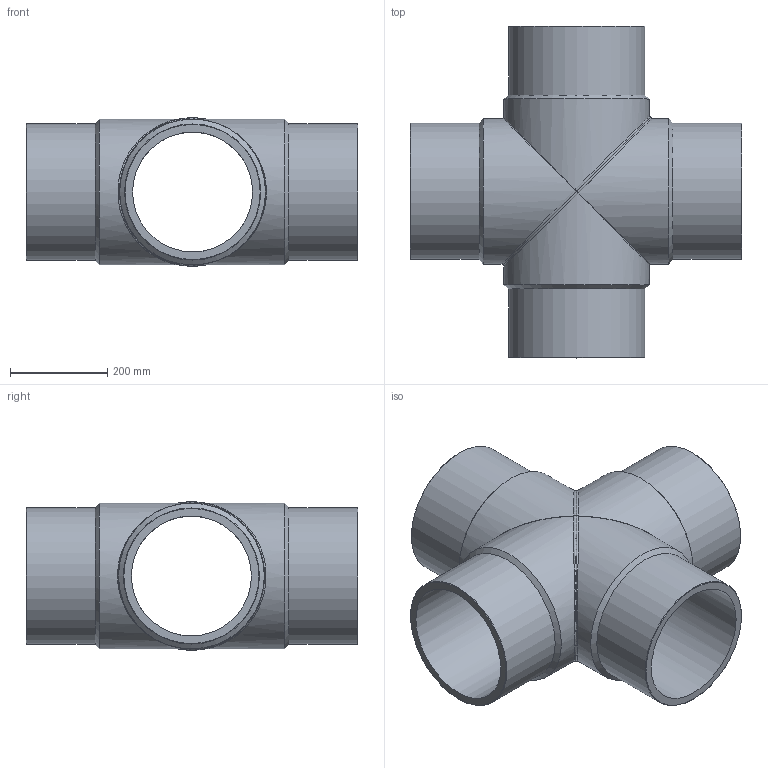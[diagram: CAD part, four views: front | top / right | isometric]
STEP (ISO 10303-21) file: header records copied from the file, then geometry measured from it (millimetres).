
FILE_DESCRIPTION(/* description */ ('Unknown'),/* implementation_level */ '2;1');
FILE_NAME(/* name */ 'CRP280B',/* time_stamp */ '2022-07-08T11:12:12+02:00',/* author */ ('Unknown'),/* organization */ ('Unknown'),/* preprocessor_version */ 'ST-DEVELOPER v18.102',/* originating_system */ 'Solid Edge',/* authorisation */ 'Unknown');
FILE_SCHEMA (('AUTOMOTIVE_DESIGN {1 0 10303 214 3 1 1}'));
Length unit declared in the file: millimetre
Products named in the file (3): CRP280B; CRP280B_mir
Assembly tree (2 placements, depth 2):
  CRP280B
    CRP280B
    CRP280B_mir
Bounding box: 682.5 x 682.5 x 304.99 mm (x, y, z)
Volume: 17896727.4 mm3; surface area: 1842431.1 mm2
Topology: 2 solids, 2 shells, 32 faces, 144 edges, 114 vertices
Faces by surface type: cylinder 12, cone 8, plane 6, bspline 6
Full cylindrical faces by diameter (mm): 246.8 x4, 280 x4, 300 x4
Entity records: 4141 total; most frequent: CARTESIAN_POINT 3143, ORIENTED_EDGE 228, DIRECTION 126, EDGE_CURVE 114, VERTEX_POINT 104, B_SPLINE_CURVE_WITH_KNOTS 80, AXIS2_PLACEMENT_3D 63, EDGE_LOOP 58
